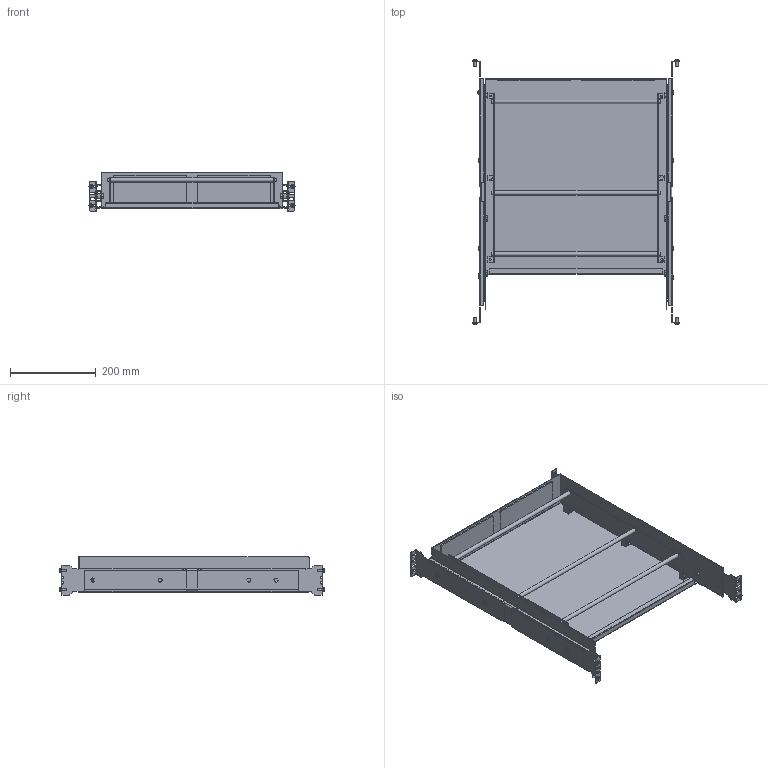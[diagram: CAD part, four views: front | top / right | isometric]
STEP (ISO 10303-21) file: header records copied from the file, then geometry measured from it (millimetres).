
FILE_DESCRIPTION((''),'2;1');
FILE_NAME('C:\old_Drawings\shrinkwrapped website .stp files\561265-STP.stp','2011-05-18T14:57:11',('GaryRobinson'),(''),'Autodesk Inventor 2011','Autodesk Inventor 2011','');
FILE_SCHEMA(('CONFIG_CONTROL_DESIGN'));
Length unit declared in the file: inch
Products named in the file (1): 561265-STP
Bounding box: 480.28 x 616.36 x 89.18 mm (x, y, z)
Surface area: 1016648.1 mm2 (no closed solid volume)
Topology: 0 solids, 87 shells, 244 faces, 1532 edges, 1320 vertices
Faces by surface type: plane 157, cylinder 77, torus 8, bspline 2
Full cylindrical faces by diameter (mm): 4.166 x5, 4.826 x8, 7.925 x6, 9.473 x8, 9.525 x3
Entity records: 14723 total; most frequent: CARTESIAN_POINT 3683, DIRECTION 2047, ORIENTED_EDGE 1698, EDGE_CURVE 1491, VERTEX_POINT 1319, VECTOR 845, LINE 845, AXIS2_PLACEMENT_3D 601
